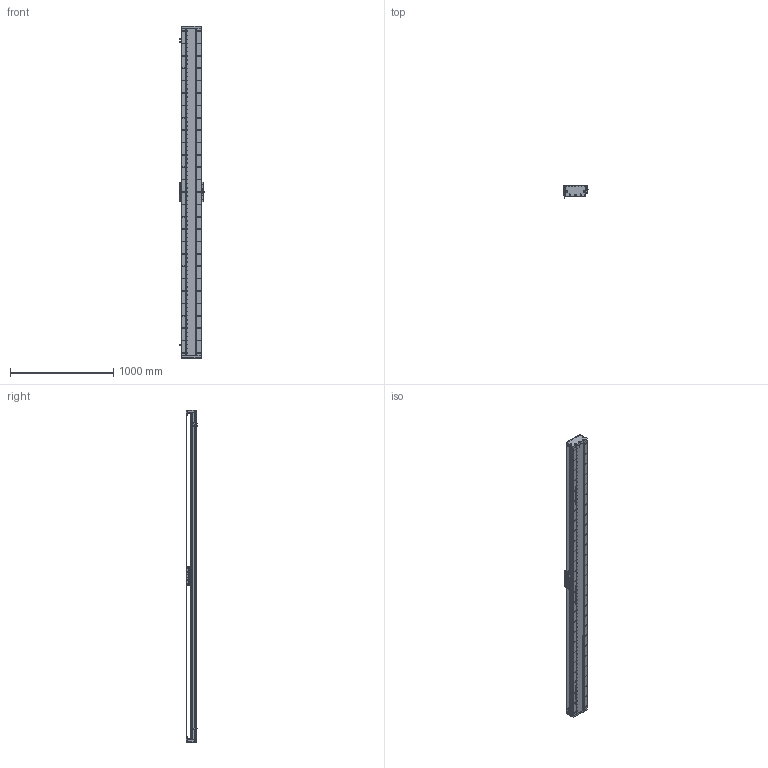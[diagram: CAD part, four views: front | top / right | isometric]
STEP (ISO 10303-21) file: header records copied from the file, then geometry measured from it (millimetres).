
FILE_DESCRIPTION (( 'STEP AP203' ), '1' );
FILE_NAME ('DA-C195-C2-T2940-C010-0.2 眻盄萇儂.STEP', '2025-08-15T01:15:53', ( '' ), ( '' ), 'SwSTEP 2.0', 'SolidWorks 2019', '' );
FILE_SCHEMA (( 'CONFIG_CONTROL_DESIGN' ));
Length unit declared in the file: millimetre
Products named in the file (15): PM-T45ㄗ侂狟ㄘ; DA195詩湍郪璃; CU195-C2賑輸-俋楷; MS200 棠掑喜S315-T1740; 葩璃 DA95-GT-T-00; DA-C195-C2-T2940-C010-0.2 眻盄萇儂; DA-C195-GD-DB-H-00 傷啣; DA95-HXJ-00 遣喳砎蝶; DA195詩湍菜輸; DA195詩湍裔啣; IU-CU195-L-00 菁釱(L3180); DA165-GYP-00 光电感应片(默认); LMT黍杅芛; IU-CU195-L 菁釱絳寢; DA195詩湍嶺輸
Assembly tree (29 placements, depth 3):
  DA-C195-C2-T2940-C010-0.2 眻盄萇儂
    DA195詩湍郪璃
      DA195詩湍菜輸  x2
      DA195詩湍裔啣
      DA195詩湍嶺輸  x2
      DA95-HXJ-00 遣喳砎蝶  x8
      DA-C195-GD-DB-H-00 傷啣  x2
    IU-CU195-L 菁釱絳寢
      IU-CU195-L-00 菁釱(L3180)
      葩璃 DA95-GT-T-00  x4
    LMT黍杅芛
    MS200 棠掑喜S315-T1740
    PM-T45ㄗ侂狟ㄘ  x3
    DA165-GYP-00 光电感应片(默认)
    CU195-C2賑輸-俋楷
Bounding box: 248 x 115.45 x 3220 mm (x, y, z)
Volume: 18066318.9 mm3; surface area: 5384193 mm2
Topology: 66 solids, 130 shells, 4644 faces, 13243 edges, 8375 vertices
Faces by surface type: cylinder 2615, plane 1411, cone 530, torus 52, sphere 36
Entity records: 153903 total; most frequent: CARTESIAN_POINT 43462, ORIENTED_EDGE 23370, DIRECTION 22056, EDGE_CURVE 11685, AXIS2_PLACEMENT_3D 8301, VERTEX_POINT 7577, VECTOR 5454, LINE 5454
